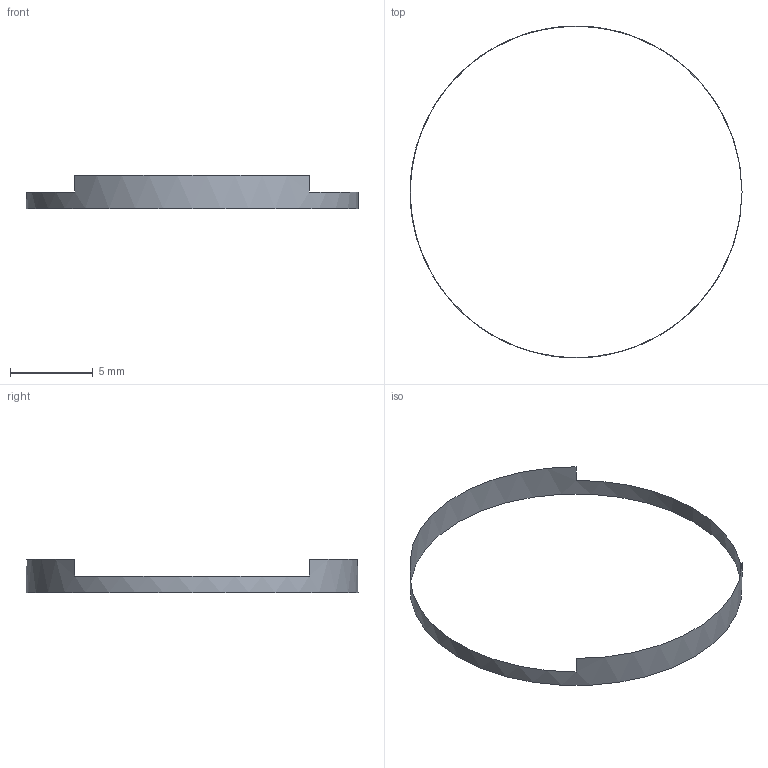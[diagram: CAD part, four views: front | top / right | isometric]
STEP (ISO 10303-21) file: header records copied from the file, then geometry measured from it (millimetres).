
FILE_DESCRIPTION(('BRL-CAD AP214 segmented cylindrical band fixture'),'2;1');
FILE_NAME('ap214_segmented_cylinder_band.stp','2026-07-21T00:00:00',('BRL-CAD'),('BRL-CAD'),'','','');
FILE_SCHEMA(('AUTOMOTIVE_DESIGN { 1 0 10303 214 3 1 1 1 }'));
Length unit declared in the file: millimetre
Products named in the file (1): segmented_cylinder_band
Bounding box: 20 x 20 x 2 mm (x, y, z)
Surface area: 94.2 mm2 (no closed solid volume)
Topology: 0 solids, 1 shells, 1 faces, 11 edges, 10 vertices
Faces by surface type: cylinder 1
Full cylindrical faces by diameter (mm): 20 x1
Entity records: 74 total; most frequent: CARTESIAN_POINT 12, VERTEX_POINT 9, EDGE_CURVE 9, ORIENTED_EDGE 9, DIRECTION 4, LINE 4, AXIS2_PLACEMENT_3D 3, CIRCLE 3
